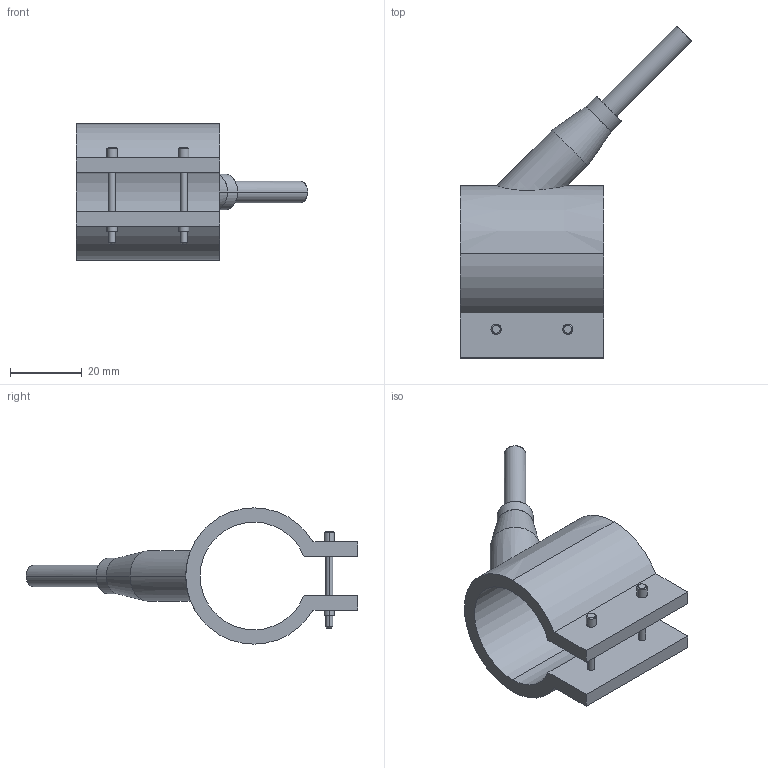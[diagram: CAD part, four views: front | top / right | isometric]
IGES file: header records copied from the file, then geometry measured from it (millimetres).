
Start section: START RECORD GO HERE.
Global section: file name: 29030040.igs; native system: DASSAULT SYSTEMES CATIA V5 R20 - www.3ds.com; preprocessor: CATIA Version 5 Release 20 ; author: Utente; organization: NB04-ASUS; date: 20210327.100610; units: millimetre
Bounding box: 64.55 x 92.55 x 38 mm (x, y, z)
Surface area: 12697.8 mm2 (no closed solid volume)
Topology: 0 solids, 0 shells, 54 faces, 244 edges, 244 vertices
Faces by surface type: revolution 38, plane 16
